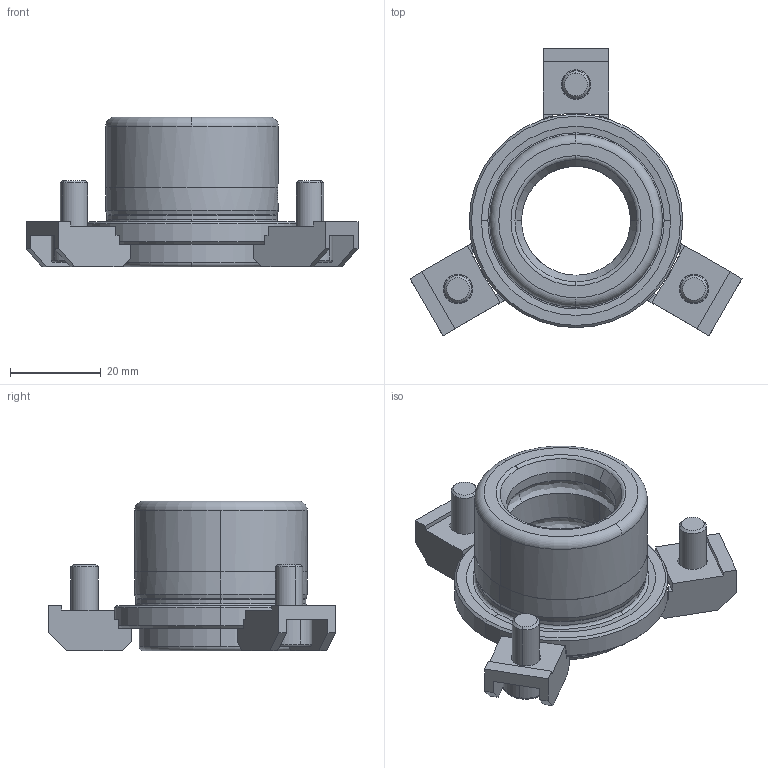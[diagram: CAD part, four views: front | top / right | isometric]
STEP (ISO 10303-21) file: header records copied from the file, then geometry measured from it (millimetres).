
FILE_DESCRIPTION((''),'2;1');
FILE_NAME('B12_024_010.stp','2008-11-04T11:47:32',(''),(''),'Mechanical Desktop 2009','Mechanical Desktop 2009',', , ');
FILE_SCHEMA(('CONFIG_CONTROL_DESIGN'));
Length unit declared in the file: millimetre
Products named in the file (2): Product; blmdl1
Assembly tree (1 placements, depth 2):
  Product
    blmdl1
Bounding box: 73.07 x 63.28 x 33 mm (x, y, z)
Volume: 28322.5 mm3; surface area: 14007 mm2
Topology: 7 solids, 7 shells, 196 faces, 514 edges, 338 vertices
Faces by surface type: plane 104, cylinder 47, cone 16, bspline 15, torus 14
Entity records: 7110 total; most frequent: CARTESIAN_POINT 2035, DIRECTION 1072, ORIENTED_EDGE 1028, EDGE_CURVE 514, AXIS2_PLACEMENT_3D 385, VERTEX_POINT 338, VECTOR 302, LINE 302
